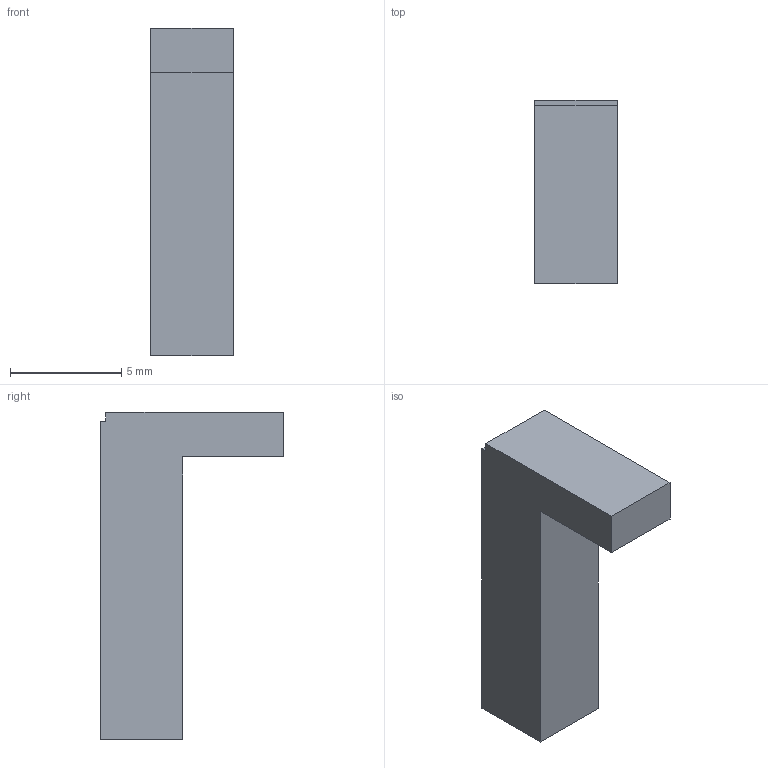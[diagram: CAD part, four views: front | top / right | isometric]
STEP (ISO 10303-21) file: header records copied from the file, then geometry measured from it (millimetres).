
FILE_DESCRIPTION(('Open CASCADE Model'),'2;1');
FILE_NAME('Open CASCADE Shape Model','2026-09-17T20:09:27',('Author'),( 'Open CASCADE'),'Open CASCADE STEP processor 7.7','Open CASCADE 7.7' ,'Unknown');
FILE_SCHEMA(('AUTOMOTIVE_DESIGN { 1 0 10303 214 1 1 1 1 }'));
Length unit declared in the file: millimetre
Products named in the file (1): Open CASCADE STEP translator 7.7 4
Bounding box: 3.7 x 8.25 x 14.7 mm (x, y, z)
Volume: 234.5 mm3; surface area: 296.6 mm2
Topology: 1 solids, 1 shells, 10 faces, 24 edges, 16 vertices
Faces by surface type: plane 10
Entity records: 606 total; most frequent: CARTESIAN_POINT 103, DIRECTION 90, LINE 68, VECTOR 68, ORIENTED_EDGE 48, PCURVE 48, DEFINITIONAL_REPRESENTATION 48, EDGE_CURVE 24
